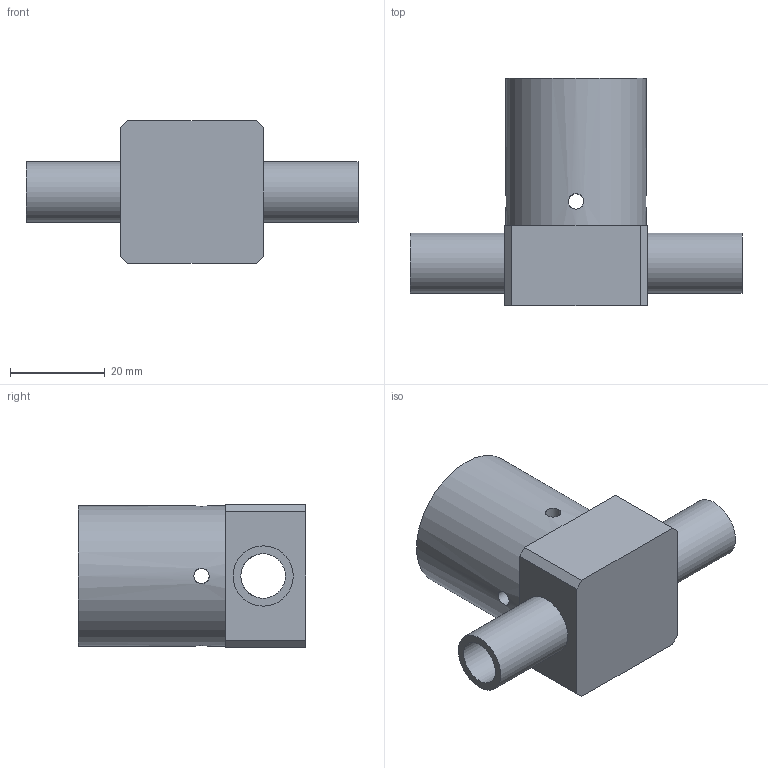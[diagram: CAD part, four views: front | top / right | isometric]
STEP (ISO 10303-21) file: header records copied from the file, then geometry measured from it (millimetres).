
FILE_DESCRIPTION(/* description */ ('STEP AP203'),/* implementation_level */ '2;1');
FILE_NAME(/* name */ 'E43363',/* time_stamp */ '2024-10-25T10:13:11+02:00',/* author */ ('License CC BY-ND 4.0'),/* organization */ ('CADENAS'),/* preprocessor_version */ 'ST-DEVELOPER v19.3',/* originating_system */ 'PARTsolutions',/* authorisation */ ' ');
FILE_SCHEMA (('CONFIG_CONTROL_DESIGN'));
Length unit declared in the file: millimetre
Products named in the file (1): E43363
Bounding box: 70 x 48 x 30 mm (x, y, z)
Volume: 27038.9 mm3; surface area: 12021.2 mm2
Topology: 1 solids, 1 shells, 29 faces, 74 edges, 48 vertices
Faces by surface type: plane 13, cylinder 10, cone 4, torus 2
Full cylindrical faces by diameter (mm): 3.25 x4, 12.7 x2, 16 x1, 18.631 x1, 29.6 x1
Entity records: 910 total; most frequent: CARTESIAN_POINT 252, DIRECTION 116, ORIENTED_EDGE 112, EDGE_CURVE 56, EDGE_LOOP 56, FACE_BOUND 56, AXIS2_PLACEMENT_3D 46, VERTEX_POINT 44
